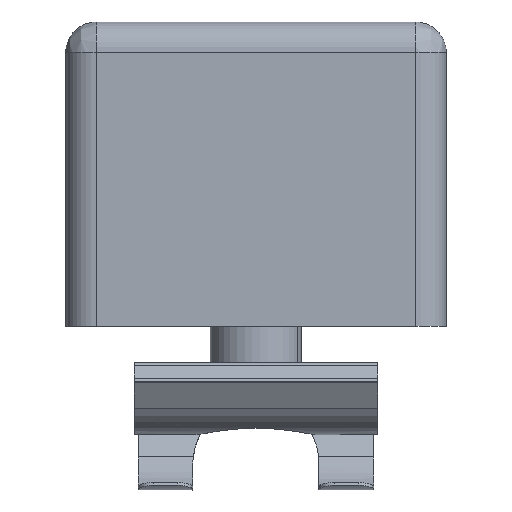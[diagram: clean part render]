
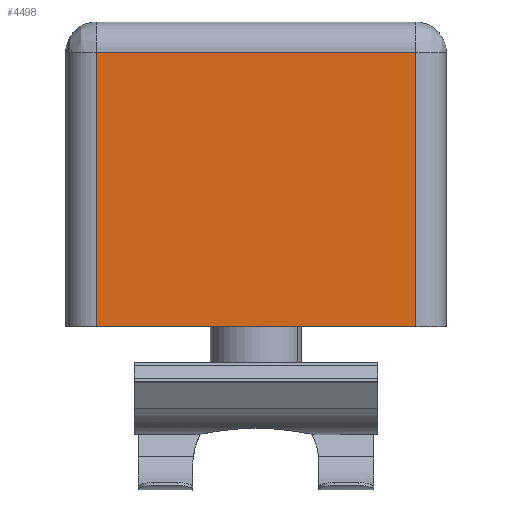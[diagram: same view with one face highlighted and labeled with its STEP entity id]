
A CAD part, front view. The second image highlights one B-rep face of the part: STEP entity #4498.
In plain terms, the highlighted planar face has unit normal (0, -1, 0).
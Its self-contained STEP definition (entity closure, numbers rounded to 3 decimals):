
#42 = LINE ( 'NONE', #978, #2797 ) ;
#64 = VERTEX_POINT ( 'NONE', #1437 ) ;
#89 = ORIENTED_EDGE ( 'NONE', *, *, #4658, .F. ) ;
#207 = PLANE ( 'NONE',  #1550 ) ;
#446 = CARTESIAN_POINT ( 'NONE',  ( -10.223, -9.59, 5.877 ) ) ;
#717 = DIRECTION ( 'NONE',  ( -1., 0., 0. ) ) ;
#957 = CARTESIAN_POINT ( 'NONE',  ( -12.223, -9.59, 7.877 ) ) ;
#960 = ORIENTED_EDGE ( 'NONE', *, *, #3760, .F. ) ;
#962 = VECTOR ( 'NONE', #3338, 1000. ) ;
#978 = CARTESIAN_POINT ( 'NONE',  ( 10.777, -9.59, 7.877 ) ) ;
#988 = DIRECTION ( 'NONE',  ( 0., 1., 0. ) ) ;
#1058 = ORIENTED_EDGE ( 'NONE', *, *, #3698, .F. ) ;
#1389 = LINE ( 'NONE', #3367, #962 ) ;
#1437 = CARTESIAN_POINT ( 'NONE',  ( 10.777, -9.59, -12.123 ) ) ;
#1550 = AXIS2_PLACEMENT_3D ( 'NONE', #957, #988, #2590 ) ;
#1797 = FACE_OUTER_BOUND ( 'NONE', #2112, .T. ) ;
#1839 = LINE ( 'NONE', #4562, #4310 ) ;
#2112 = EDGE_LOOP ( 'NONE', ( #3469, #1058, #89, #960 ) ) ;
#2363 = LINE ( 'NONE', #5103, #3811 ) ;
#2515 = CARTESIAN_POINT ( 'NONE',  ( -10.223, -9.59, -12.123 ) ) ;
#2590 = DIRECTION ( 'NONE',  ( 0., 0., 1. ) ) ;
#2797 = VECTOR ( 'NONE', #5000, 1000. ) ;
#3088 = VERTEX_POINT ( 'NONE', #2515 ) ;
#3156 = VERTEX_POINT ( 'NONE', #446 ) ;
#3338 = DIRECTION ( 'NONE',  ( 0., 0., 1. ) ) ;
#3367 = CARTESIAN_POINT ( 'NONE',  ( -10.223, -9.59, 7.877 ) ) ;
#3469 = ORIENTED_EDGE ( 'NONE', *, *, #4663, .F. ) ;
#3609 = CARTESIAN_POINT ( 'NONE',  ( 10.777, -9.59, 5.877 ) ) ;
#3698 = EDGE_CURVE ( 'NONE', #64, #3088, #1839, .T. ) ;
#3760 = EDGE_CURVE ( 'NONE', #3156, #4877, #2363, .T. ) ;
#3811 = VECTOR ( 'NONE', #3952, 1000. ) ;
#3952 = DIRECTION ( 'NONE',  ( 1., 0., 0. ) ) ;
#4310 = VECTOR ( 'NONE', #717, 1000. ) ;
#4498 = ADVANCED_FACE ( 'NONE', ( #1797 ), #207, .F. ) ;
#4562 = CARTESIAN_POINT ( 'NONE',  ( 0.277, -9.59, -12.123 ) ) ;
#4658 = EDGE_CURVE ( 'NONE', #4877, #64, #42, .T. ) ;
#4663 = EDGE_CURVE ( 'NONE', #3088, #3156, #1389, .T. ) ;
#4877 = VERTEX_POINT ( 'NONE', #3609 ) ;
#5000 = DIRECTION ( 'NONE',  ( 0., 0., -1. ) ) ;
#5103 = CARTESIAN_POINT ( 'NONE',  ( -12.223, -9.59, 5.877 ) ) ;
